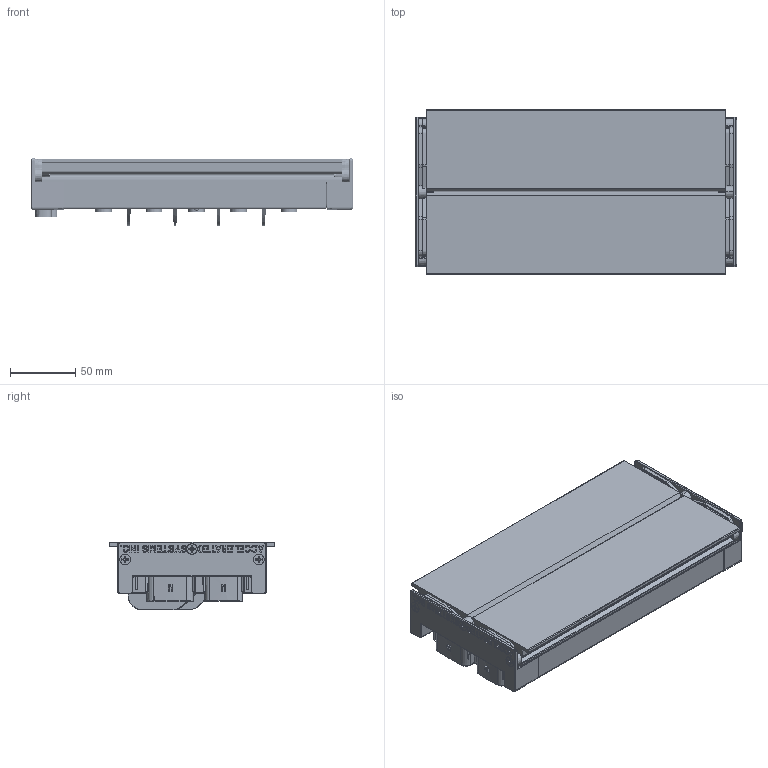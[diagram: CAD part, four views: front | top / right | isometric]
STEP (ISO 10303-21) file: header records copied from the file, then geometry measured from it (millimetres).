
FILE_DESCRIPTION (( 'STEP AP214' ), '1' );
FILE_NAME ('06-000788 - A - BAC Cd 8000 Interface.STEP', '2018-11-29T16:42:46', ( '' ), ( '' ), 'SwSTEP 2.0', 'SolidWorks 2018', '' );
FILE_SCHEMA (( 'AUTOMOTIVE_DESIGN' ));
Length unit declared in the file: millimetre
Products named in the file (12): 20-001174 _20-001296; 20-001173_20-001295; 06-000788 - A - BAC Cd 8000 Interface; 20-000929_Taller; 757571181_6-PIN; 2018-07-11 90273A146_ZINC-PLATED STL FLAT HEAD PHIL MACHINE SCREW_80-000608; 20-001172_20-001294; 20-000987_20-001258-8A; 10-000653_10-000653; 20-001177_20-001282; 2017-08-04 light pipe^2017-07-14 BAC8000_80-000577; 757571181_16-PIN
Assembly tree (21 placements, depth 3):
  06-000788 - A - BAC Cd 8000 Interface
    20-000987_20-001258-8A
    10-000653_10-000653
      20-000929_Taller  x5
      757571181_6-PIN
      757571181_16-PIN
    20-001173_20-001295
    20-001172_20-001294
    20-001174 _20-001296
    20-001177_20-001282  x2
    2017-08-04 light pipe^2017-07-14 BAC8000_80-000577
    2018-07-11 90273A146_ZINC-PLATED STL FLAT HEAD PHIL MACHINE SCREW_80-000608  x6
Bounding box: 246.12 x 126 x 51.7 mm (x, y, z)
Volume: 449380.5 mm3; surface area: 234840.3 mm2
Topology: 20 solids, 20 shells, 5689 faces, 16221 edges, 10904 vertices
Faces by surface type: plane 3840, cylinder 722, bspline 722, cone 329, torus 72, sphere 4
Entity records: 235890 total; most frequent: CARTESIAN_POINT 110161, ORIENTED_EDGE 28206, DIRECTION 21902, EDGE_CURVE 14103, VECTOR 10950, LINE 10950, VERTEX_POINT 9506, AXIS2_PLACEMENT_3D 5476
